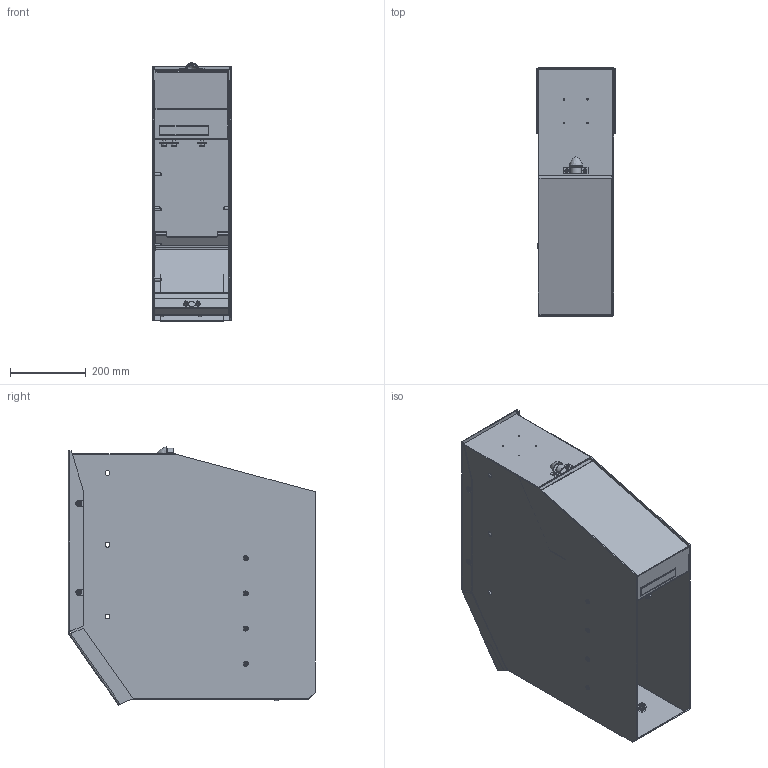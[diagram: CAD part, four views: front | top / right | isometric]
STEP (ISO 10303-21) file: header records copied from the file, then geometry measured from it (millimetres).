
FILE_DESCRIPTION((''),'2;1');
FILE_NAME('C:\Projects_1\Workspace\Autoline\Export\Step\C50 Complete No Brackets.stp','2010-12-30T15:42:16',('borhar'),(''),'Autodesk Inventor 2011','Autodesk Inventor 2011','');
FILE_SCHEMA(('AUTOMOTIVE_DESIGN { 1 0 10303 214 1 1 1 1 }'));
Length unit declared in the file: millimetre
Products named in the file (20): C50.iam (Export); 9596000; C50 Bakplate; Hside S90; Vside S90; C50 frontplate; C50 Motorplate; 2302050; Filler hatch Cover C50; 9598006; 2502001; 4498419-Flat; 4498118; 4498108; 4498220; 4498218; 2199003; 4498409-Flat; 4498413
Assembly tree (42 placements, depth 3):
  C50.iam (Export)
    9596000
      C50 Bakplate
      Hside S90
      Vside S90
      C50 frontplate
      C50 Motorplate
    2302050
      2302050
      Filler hatch Cover C50
    9598006
    2502001
    4498419-Flat  x8
    4498118  x2
    4498108  x4
    4498220  x6
    4498218  x6
    2199003
    4498409-Flat  x2
    4498413  x2
Bounding box: 209 x 655.41 x 683.71 mm (x, y, z)
Volume: 2668305.5 mm3; surface area: 2755084.4 mm2
Topology: 44 solids, 44 shells, 974 faces, 2329 edges, 1464 vertices
Faces by surface type: plane 441, cylinder 248, bspline 123, cone 114, torus 38, sphere 10
Full cylindrical faces by diameter (mm): 3.5 x4, 3.652 x2, 4.8 x2, 5 x4, 7 x22, 7.323 x4, 8 x24, 8.4 x6, 11 x1, 11.284 x6, 11.4 x4, 12.74 x6, 13 x6, 18 x1, 23 x6
Entity records: 19903 total; most frequent: CARTESIAN_POINT 4927, ORIENTED_EDGE 2932, DIRECTION 2752, EDGE_CURVE 1466, VERTEX_POINT 978, AXIS2_PLACEMENT_3D 946, VECTOR 860, LINE 860
